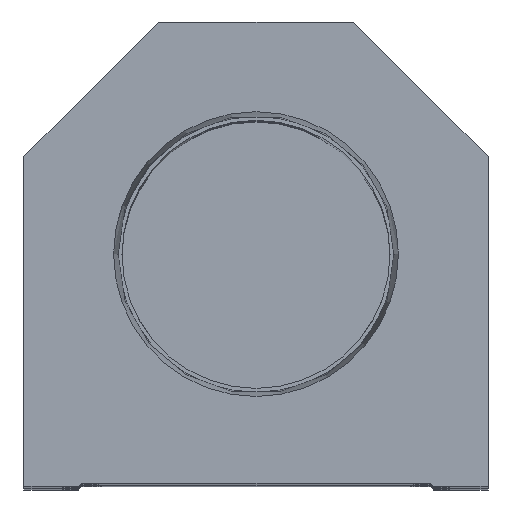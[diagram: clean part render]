
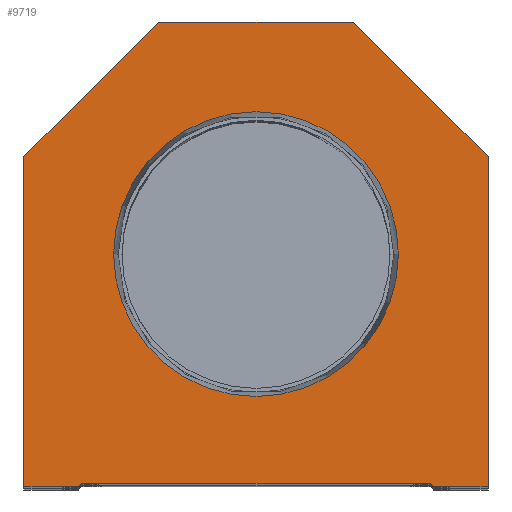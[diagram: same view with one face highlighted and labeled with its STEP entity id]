
A CAD part, top view. The second image highlights one B-rep face of the part: STEP entity #9719.
In plain terms, the highlighted planar face has unit normal (0, 0, 1).
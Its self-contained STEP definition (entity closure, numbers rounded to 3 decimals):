
#303 = VECTOR ( 'NONE', #10655, 1000. ) ;
#491 = VERTEX_POINT ( 'NONE', #2738 ) ;
#1002 = AXIS2_PLACEMENT_3D ( 'NONE', #19293, #12290, #8422 ) ;
#1047 = FACE_OUTER_BOUND ( 'NONE', #2302, .T. ) ;
#1110 = CARTESIAN_POINT ( 'NONE',  ( 23.374, 38.1, 0. ) ) ;
#1318 = VERTEX_POINT ( 'NONE', #7484 ) ;
#1535 = LINE ( 'NONE', #13557, #17218 ) ;
#1585 = ORIENTED_EDGE ( 'NONE', *, *, #1747, .T. ) ;
#1747 = EDGE_CURVE ( 'NONE', #3441, #15144, #9963, .T. ) ;
#1962 = ORIENTED_EDGE ( 'NONE', *, *, #17586, .F. ) ;
#2245 = EDGE_CURVE ( 'NONE', #3876, #3441, #8997, .T. ) ;
#2302 = EDGE_LOOP ( 'NONE', ( #20991, #16838, #1585, #2696, #8030, #21339, #11158, #21142, #9035, #15193 ) ) ;
#2319 = CARTESIAN_POINT ( 'NONE',  ( 38.1, 0., 0. ) ) ;
#2507 = VECTOR ( 'NONE', #17269, 1000. ) ;
#2696 = ORIENTED_EDGE ( 'NONE', *, *, #7787, .T. ) ;
#2738 = CARTESIAN_POINT ( 'NONE',  ( -38.1, 0., 0. ) ) ;
#3198 = DIRECTION ( 'NONE',  ( 1., 0., 0. ) ) ;
#3303 = VECTOR ( 'NONE', #17874, 1000. ) ;
#3441 = VERTEX_POINT ( 'NONE', #16347 ) ;
#3876 = VERTEX_POINT ( 'NONE', #14632 ) ;
#4148 = VERTEX_POINT ( 'NONE', #5164 ) ;
#4263 = CARTESIAN_POINT ( 'NONE',  ( 28.6, 0.5, 0. ) ) ;
#4368 = EDGE_CURVE ( 'NONE', #7043, #15176, #16402, .T. ) ;
#5105 = EDGE_CURVE ( 'NONE', #1318, #4148, #10340, .T. ) ;
#5164 = CARTESIAN_POINT ( 'NONE',  ( -16., 76.2, 0. ) ) ;
#5173 = AXIS2_PLACEMENT_3D ( 'NONE', #19766, #8558, #12189 ) ;
#5481 = EDGE_CURVE ( 'NONE', #4148, #20997, #22700, .T. ) ;
#5596 = VERTEX_POINT ( 'NONE', #2319 ) ;
#5601 = CARTESIAN_POINT ( 'NONE',  ( -23.374, 38.1, 0. ) ) ;
#5610 = VECTOR ( 'NONE', #6837, 1000. ) ;
#6464 = LINE ( 'NONE', #21028, #9758 ) ;
#6505 = EDGE_CURVE ( 'NONE', #20099, #1318, #8371, .T. ) ;
#6618 = DIRECTION ( 'NONE',  ( 0.707, -0.707, 0. ) ) ;
#6837 = DIRECTION ( 'NONE',  ( -1., 0., 0. ) ) ;
#7043 = VERTEX_POINT ( 'NONE', #5601 ) ;
#7484 = CARTESIAN_POINT ( 'NONE',  ( 16., 76.2, 0. ) ) ;
#7600 = VERTEX_POINT ( 'NONE', #7829 ) ;
#7787 = EDGE_CURVE ( 'NONE', #15144, #7600, #22777, .T. ) ;
#7829 = CARTESIAN_POINT ( 'NONE',  ( 29.1, 0., 0. ) ) ;
#8030 = ORIENTED_EDGE ( 'NONE', *, *, #14347, .T. ) ;
#8289 = EDGE_CURVE ( 'NONE', #5596, #20099, #12343, .T. ) ;
#8371 = LINE ( 'NONE', #23077, #303 ) ;
#8422 = DIRECTION ( 'NONE',  ( 1., 0., 0. ) ) ;
#8558 = DIRECTION ( 'NONE',  ( 0., 0., 1. ) ) ;
#8661 = EDGE_CURVE ( 'NONE', #491, #3876, #19070, .T. ) ;
#8997 = LINE ( 'NONE', #17924, #13547 ) ;
#9035 = ORIENTED_EDGE ( 'NONE', *, *, #5481, .T. ) ;
#9528 = EDGE_CURVE ( 'NONE', #20997, #491, #1535, .T. ) ;
#9719 = ADVANCED_FACE ( 'NONE', ( #12055, #1047 ), #15913, .T. ) ;
#9758 = VECTOR ( 'NONE', #15622, 1000. ) ;
#9940 = DIRECTION ( 'NONE',  ( 0., -1., 0. ) ) ;
#9963 = LINE ( 'NONE', #17321, #14301 ) ;
#10340 = LINE ( 'NONE', #13847, #5610 ) ;
#10413 = CARTESIAN_POINT ( 'NONE',  ( 38.1, 0., 0. ) ) ;
#10576 = DIRECTION ( 'NONE',  ( 0.707, 0.707, 0. ) ) ;
#10655 = DIRECTION ( 'NONE',  ( -0.707, 0.707, 0. ) ) ;
#10762 = VECTOR ( 'NONE', #6618, 1000. ) ;
#10986 = CIRCLE ( 'NONE', #5173, 23.374 ) ;
#11158 = ORIENTED_EDGE ( 'NONE', *, *, #6505, .T. ) ;
#12055 = FACE_BOUND ( 'NONE', #19530, .T. ) ;
#12189 = DIRECTION ( 'NONE',  ( 1., 0., 0. ) ) ;
#12290 = DIRECTION ( 'NONE',  ( 0., 0., 1. ) ) ;
#12343 = LINE ( 'NONE', #10413, #3303 ) ;
#13153 = CARTESIAN_POINT ( 'NONE',  ( -38.1, 54.1, 0. ) ) ;
#13547 = VECTOR ( 'NONE', #10576, 1000. ) ;
#13557 = CARTESIAN_POINT ( 'NONE',  ( -38.1, 0., 0. ) ) ;
#13847 = CARTESIAN_POINT ( 'NONE',  ( 16., 76.2, 0. ) ) ;
#14301 = VECTOR ( 'NONE', #23186, 1000. ) ;
#14347 = EDGE_CURVE ( 'NONE', #7600, #5596, #6464, .T. ) ;
#14564 = CARTESIAN_POINT ( 'NONE',  ( 0., 38.1, 0. ) ) ;
#14632 = CARTESIAN_POINT ( 'NONE',  ( -29.1, 0., 0. ) ) ;
#15144 = VERTEX_POINT ( 'NONE', #4263 ) ;
#15176 = VERTEX_POINT ( 'NONE', #1110 ) ;
#15193 = ORIENTED_EDGE ( 'NONE', *, *, #9528, .T. ) ;
#15622 = DIRECTION ( 'NONE',  ( 1., 0., 0. ) ) ;
#15798 = CARTESIAN_POINT ( 'NONE',  ( 14.55, 14.55, 0. ) ) ;
#15913 = PLANE ( 'NONE',  #1002 ) ;
#16347 = CARTESIAN_POINT ( 'NONE',  ( -28.6, 0.5, 0. ) ) ;
#16402 = CIRCLE ( 'NONE', #19470, 23.374 ) ;
#16424 = CARTESIAN_POINT ( 'NONE',  ( 38.1, 54.1, 0. ) ) ;
#16455 = VECTOR ( 'NONE', #16943, 1000. ) ;
#16838 = ORIENTED_EDGE ( 'NONE', *, *, #2245, .T. ) ;
#16943 = DIRECTION ( 'NONE',  ( -0.707, -0.707, 0. ) ) ;
#17218 = VECTOR ( 'NONE', #9940, 1000. ) ;
#17269 = DIRECTION ( 'NONE',  ( 1., 0., 0. ) ) ;
#17321 = CARTESIAN_POINT ( 'NONE',  ( -28.6, 0.5, 0. ) ) ;
#17586 = EDGE_CURVE ( 'NONE', #15176, #7043, #10986, .T. ) ;
#17874 = DIRECTION ( 'NONE',  ( 0., 1., 0. ) ) ;
#17924 = CARTESIAN_POINT ( 'NONE',  ( -14.55, 14.55, 0. ) ) ;
#18708 = CARTESIAN_POINT ( 'NONE',  ( -28.6, 0., 0. ) ) ;
#19070 = LINE ( 'NONE', #18708, #2507 ) ;
#19293 = CARTESIAN_POINT ( 'NONE',  ( 0., 0., 0. ) ) ;
#19470 = AXIS2_PLACEMENT_3D ( 'NONE', #14564, #19744, #3198 ) ;
#19530 = EDGE_LOOP ( 'NONE', ( #1962, #22693 ) ) ;
#19744 = DIRECTION ( 'NONE',  ( 0., 0., 1. ) ) ;
#19766 = CARTESIAN_POINT ( 'NONE',  ( 0., 38.1, 0. ) ) ;
#20099 = VERTEX_POINT ( 'NONE', #16424 ) ;
#20991 = ORIENTED_EDGE ( 'NONE', *, *, #8661, .T. ) ;
#20997 = VERTEX_POINT ( 'NONE', #13153 ) ;
#21028 = CARTESIAN_POINT ( 'NONE',  ( 28.6, 0., 0. ) ) ;
#21142 = ORIENTED_EDGE ( 'NONE', *, *, #5105, .T. ) ;
#21339 = ORIENTED_EDGE ( 'NONE', *, *, #8289, .T. ) ;
#22573 = CARTESIAN_POINT ( 'NONE',  ( -38.1, 54.1, 0. ) ) ;
#22693 = ORIENTED_EDGE ( 'NONE', *, *, #4368, .F. ) ;
#22700 = LINE ( 'NONE', #22573, #16455 ) ;
#22777 = LINE ( 'NONE', #15798, #10762 ) ;
#23077 = CARTESIAN_POINT ( 'NONE',  ( 38.1, 54.1, 0. ) ) ;
#23186 = DIRECTION ( 'NONE',  ( 1., 0., 0. ) ) ;
